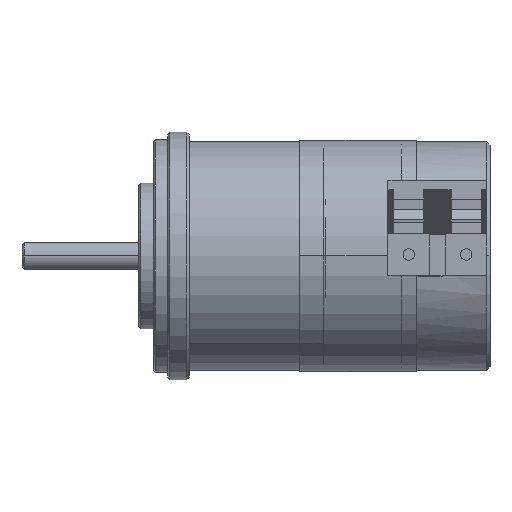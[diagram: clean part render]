
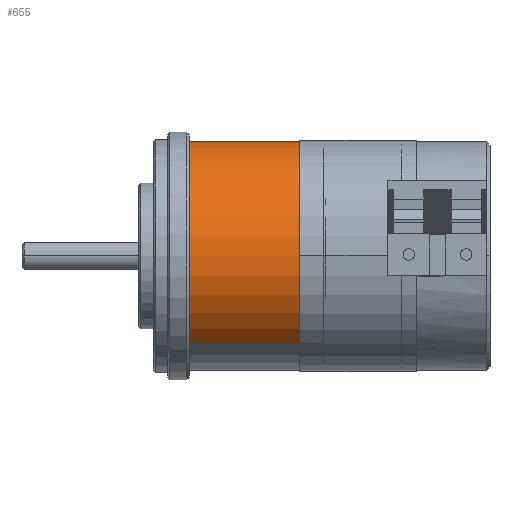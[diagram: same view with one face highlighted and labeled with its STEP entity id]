
A CAD part, top view. The second image highlights one B-rep face of the part: STEP entity #655.
In plain terms, the highlighted cylindrical face has radius 12.446 mm (diameter 24.892 mm), a partial arc.
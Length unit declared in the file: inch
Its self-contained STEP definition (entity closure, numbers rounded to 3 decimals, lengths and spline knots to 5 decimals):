
#30 = AXIS2_PLACEMENT_3D ( 'NONE', #5072, #545, #5827 ) ;
#66 = EDGE_CURVE ( 'NONE', #2061, #6238, #2528, .T. ) ;
#290 = VERTEX_POINT ( 'NONE', #9671 ) ;
#545 = DIRECTION ( 'NONE',  ( 1., 0., 0. ) ) ;
#655 = ADVANCED_FACE ( 'NONE', ( #4244 ), #7953, .T. ) ;
#688 = DIRECTION ( 'NONE',  ( 0., -0.766, 0.643 ) ) ;
#772 = EDGE_CURVE ( 'NONE', #4585, #6238, #8121, .T. ) ;
#978 = AXIS2_PLACEMENT_3D ( 'NONE', #8017, #2165, #2135 ) ;
#1488 = CARTESIAN_POINT ( 'NONE',  ( -0.01, -0.37536, 0.31497 ) ) ;
#1693 = LINE ( 'NONE', #1981, #5490 ) ;
#1900 = ORIENTED_EDGE ( 'NONE', *, *, #66, .F. ) ;
#1948 = DIRECTION ( 'NONE',  ( 1., 0., 0. ) ) ;
#1981 = CARTESIAN_POINT ( 'NONE',  ( 0., -0.37536, 0.31497 ) ) ;
#2021 = CARTESIAN_POINT ( 'NONE',  ( -0.01, 0.37536, -0.31497 ) ) ;
#2061 = VERTEX_POINT ( 'NONE', #5038 ) ;
#2135 = DIRECTION ( 'NONE',  ( 0., 0.766, -0.643 ) ) ;
#2165 = DIRECTION ( 'NONE',  ( -1., 0., 0. ) ) ;
#2528 = LINE ( 'NONE', #5689, #7544 ) ;
#2546 = CIRCLE ( 'NONE', #2727, 0.49 ) ;
#2727 = AXIS2_PLACEMENT_3D ( 'NONE', #7053, #4607, #688 ) ;
#3990 = EDGE_CURVE ( 'NONE', #290, #4585, #1693, .T. ) ;
#4032 = EDGE_CURVE ( 'NONE', #2061, #290, #2546, .T. ) ;
#4244 = FACE_OUTER_BOUND ( 'NONE', #8853, .T. ) ;
#4585 = VERTEX_POINT ( 'NONE', #1488 ) ;
#4607 = DIRECTION ( 'NONE',  ( 1., 0., 0. ) ) ;
#4795 = ORIENTED_EDGE ( 'NONE', *, *, #772, .T. ) ;
#5038 = CARTESIAN_POINT ( 'NONE',  ( -0.583, 0.37536, -0.31497 ) ) ;
#5072 = CARTESIAN_POINT ( 'NONE',  ( 0., 0., 0. ) ) ;
#5090 = ORIENTED_EDGE ( 'NONE', *, *, #3990, .T. ) ;
#5418 = ORIENTED_EDGE ( 'NONE', *, *, #4032, .T. ) ;
#5490 = VECTOR ( 'NONE', #1948, 39.37008 ) ;
#5689 = CARTESIAN_POINT ( 'NONE',  ( 0., 0.37536, -0.31497 ) ) ;
#5827 = DIRECTION ( 'NONE',  ( 0., -0.766, 0.643 ) ) ;
#6238 = VERTEX_POINT ( 'NONE', #2021 ) ;
#7053 = CARTESIAN_POINT ( 'NONE',  ( -0.583, 0., 0. ) ) ;
#7544 = VECTOR ( 'NONE', #7928, 39.37008 ) ;
#7928 = DIRECTION ( 'NONE',  ( 1., 0., 0. ) ) ;
#7953 = CYLINDRICAL_SURFACE ( 'NONE', #30, 0.49 ) ;
#8017 = CARTESIAN_POINT ( 'NONE',  ( -0.01, 0., 0. ) ) ;
#8121 = CIRCLE ( 'NONE', #978, 0.49 ) ;
#8853 = EDGE_LOOP ( 'NONE', ( #1900, #5418, #5090, #4795 ) ) ;
#9671 = CARTESIAN_POINT ( 'NONE',  ( -0.583, -0.37536, 0.31497 ) ) ;
